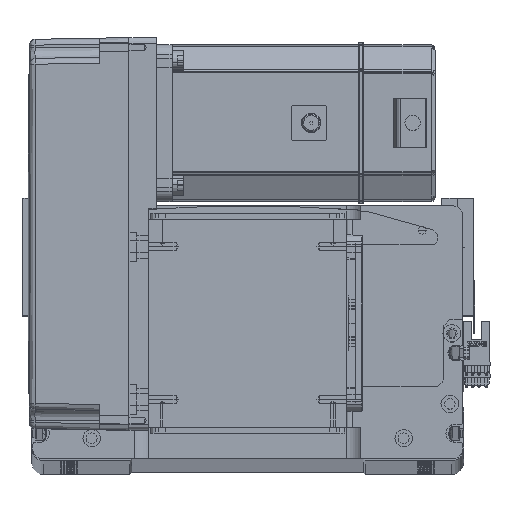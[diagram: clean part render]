
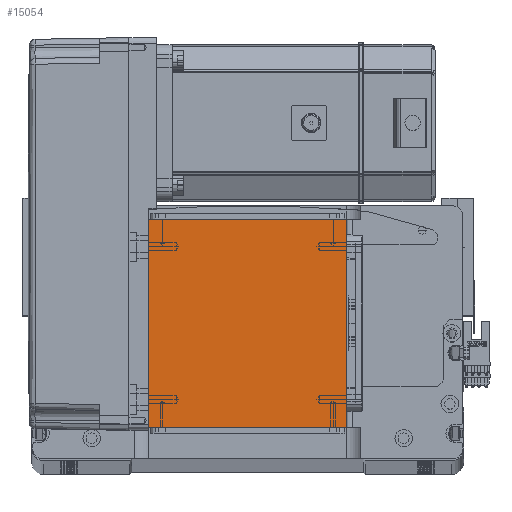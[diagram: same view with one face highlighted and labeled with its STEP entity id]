
A CAD part, top view. The second image highlights one B-rep face of the part: STEP entity #15054.
In plain terms, the highlighted planar face has unit normal (0, 0, 1).
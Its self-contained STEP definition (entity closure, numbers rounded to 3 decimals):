
#464 = CARTESIAN_POINT ( 'NONE',  ( 50.5, 122., 115. ) ) ;
#1062 = EDGE_CURVE ( 'NONE', #50796, #38293, #20920, .T. ) ;
#6009 = DIRECTION ( 'NONE',  ( 1., 0., 0. ) ) ;
#6914 = CARTESIAN_POINT ( 'NONE',  ( 50.5, 16., 115. ) ) ;
#9277 = PLANE ( 'NONE',  #58944 ) ;
#9792 = VECTOR ( 'NONE', #37973, 1000. ) ;
#10500 = ORIENTED_EDGE ( 'NONE', *, *, #54842, .T. ) ;
#10504 = FACE_OUTER_BOUND ( 'NONE', #40711, .T. ) ;
#14686 = VERTEX_POINT ( 'NONE', #6914 ) ;
#15050 = EDGE_CURVE ( 'NONE', #14686, #50796, #48321, .T. ) ;
#15054 = ADVANCED_FACE ( 'NONE', ( #10504 ), #9277, .T. ) ;
#16038 = EDGE_CURVE ( 'NONE', #38293, #47544, #46753, .T. ) ;
#16328 = CARTESIAN_POINT ( 'NONE',  ( -50.5, 122., 115. ) ) ;
#16360 = VECTOR ( 'NONE', #52689, 1000. ) ;
#18929 = CARTESIAN_POINT ( 'NONE',  ( -50.5, 122., 115. ) ) ;
#20607 = CARTESIAN_POINT ( 'NONE',  ( -50.5, 16., 115. ) ) ;
#20920 = LINE ( 'NONE', #18929, #9792 ) ;
#23573 = DIRECTION ( 'NONE',  ( 0., 0., 1. ) ) ;
#26553 = ORIENTED_EDGE ( 'NONE', *, *, #16038, .T. ) ;
#27155 = VECTOR ( 'NONE', #6009, 1000. ) ;
#28356 = CARTESIAN_POINT ( 'NONE',  ( 50.5, 122., 115. ) ) ;
#36384 = VECTOR ( 'NONE', #57235, 1000. ) ;
#36999 = ORIENTED_EDGE ( 'NONE', *, *, #1062, .T. ) ;
#37973 = DIRECTION ( 'NONE',  ( -1., 0., 0. ) ) ;
#38293 = VERTEX_POINT ( 'NONE', #16328 ) ;
#40711 = EDGE_LOOP ( 'NONE', ( #26553, #10500, #54333, #36999 ) ) ;
#43676 = CARTESIAN_POINT ( 'NONE',  ( -50.5, 122., 115. ) ) ;
#46753 = LINE ( 'NONE', #43676, #16360 ) ;
#47544 = VERTEX_POINT ( 'NONE', #20607 ) ;
#48321 = LINE ( 'NONE', #28356, #36384 ) ;
#48954 = CARTESIAN_POINT ( 'NONE',  ( -50.5, 16., 115. ) ) ;
#50796 = VERTEX_POINT ( 'NONE', #464 ) ;
#52291 = DIRECTION ( 'NONE',  ( 1., 0., 0. ) ) ;
#52689 = DIRECTION ( 'NONE',  ( 0., -1., 0. ) ) ;
#53189 = LINE ( 'NONE', #48954, #27155 ) ;
#54333 = ORIENTED_EDGE ( 'NONE', *, *, #15050, .T. ) ;
#54842 = EDGE_CURVE ( 'NONE', #47544, #14686, #53189, .T. ) ;
#57235 = DIRECTION ( 'NONE',  ( 0., 1., 0. ) ) ;
#57651 = CARTESIAN_POINT ( 'NONE',  ( 0., 0., 115. ) ) ;
#58944 = AXIS2_PLACEMENT_3D ( 'NONE', #57651, #23573, #52291 ) ;
